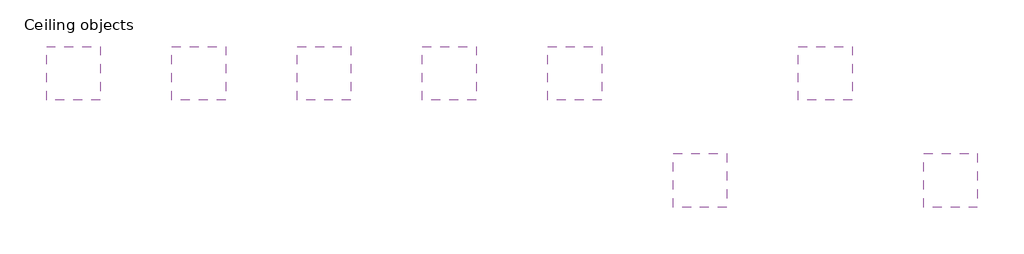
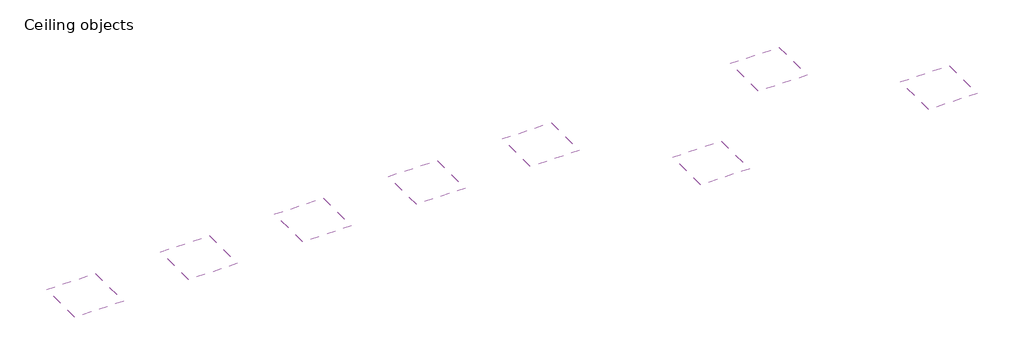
# One storey: 8 coverings.
"""IFC4 building model written with IfcOpenShell, lengths in millimetres."""

from ifc_helpers import new_model, si_unit, frame, origin, place, context, project, spatial, polyline, outline, extrude, element, save

model = new_model("IFC4")

# Units and contexts
model_context = context("Model", 3, world=origin())
ifc_project = project(units=[si_unit("LENGTHUNIT", "METRE", prefix="MILLI")], contexts=[model_context])

# Site, building, storey
site = spatial("IfcSite", under=ifc_project)
building = spatial("IfcBuilding", under=site)
storey = spatial("IfcBuildingStorey", under=building, Name="Ceiling objects", Elevation=0.0)

# Coverings
placement = place(None, origin())
element("IfcCovering", 1, ObjectType="Knauf Danoline Contur Globe 600x600x12.5_S24_D", at=placement, inside=storey, context=model_context, shape_type="SweptSolid", body=[
    extrude(outline(polyline([(-4783.0103193, 8117.0281757), (-4783.0103193, 5117.0281757), (-7783.0103193, 5117.0281757), (-7783.0103193, 8117.0281757), (-4783.0103193, 8117.0281757)])), frame((0.0, 0.0, 2600.0), z_axis=(0.0, 0.0, 1.0), x_axis=(1.0, 0.0, 0.0)), (0.0, 0.0, 1.0), 49.0000016),
])
element("IfcCovering", 2, ObjectType="Knauf Danoline Contur Micro 600x600x12.5_S24_D", at=placement, inside=storey, context=model_context, shape_type="SweptSolid", body=[
    extrude(outline(polyline([(2216.9899047, 8117.0281757), (2216.9899047, 5117.0281757), (-783.0100953, 5117.0281757), (-783.0100953, 8117.0281757), (2216.9899047, 8117.0281757)])), frame((0.0, 0.0, 2600.0), z_axis=(0.0, 0.0, 1.0), x_axis=(1.0, 0.0, 0.0)), (0.0, 0.0, 1.0), 50.0000016),
])
element("IfcCovering", 3, ObjectType="Knauf Danoline Contur Quadril 600x600x12.5_S24_D", at=placement, inside=storey, context=model_context, shape_type="SweptSolid", body=[
    extrude(outline(polyline([(9216.9901287, 8117.0281757), (9216.9901287, 5117.0281757), (6216.9901287, 5117.0281757), (6216.9901287, 8117.0281757), (9216.9901287, 8117.0281757)])), frame((0.0, 0.0, 2600.0), z_axis=(0.0, 0.0, 1.0), x_axis=(1.0, 0.0, 0.0)), (0.0, 0.0, 1.0), 50.0000016),
])
element("IfcCovering", 4, ObjectType="Knauf Danoline Contur Regular 600x600x12.5_S24_D", at=placement, inside=storey, context=model_context, shape_type="SweptSolid", body=[
    extrude(outline(polyline([(16216.9903527, 8117.0281757), (16216.9903527, 5117.0281757), (13216.9903527, 5117.0281757), (13216.9903527, 8117.0281757), (16216.9903527, 8117.0281757)])), frame((0.0, 0.0, 2600.0), z_axis=(0.0, 0.0, 1.0), x_axis=(1.0, 0.0, 0.0)), (0.0, 0.0, 1.0), 50.0000016),
])
element("IfcCovering", 5, ObjectType="Knauf Danoline Contur Tangent 600x600x12.5_S24_D", at=placement, inside=storey, context=model_context, shape_type="SweptSolid", body=[
    extrude(outline(polyline([(23216.9905767, 8117.0281757), (23216.9905767, 5117.0281757), (20216.9905767, 5117.0281757), (20216.9905767, 8117.0281757), (23216.9905767, 8117.0281757)])), frame((0.0, 0.0, 2600.0), z_axis=(0.0, 0.0, 1.0), x_axis=(1.0, 0.0, 0.0)), (0.0, 0.0, 1.0), 50.0000016),
])
element("IfcCovering", 6, ObjectType="Knauf Danoline Contur Unity 3 600x600x12.5_S24_D+", at=placement, inside=storey, context=model_context, shape_type="SweptSolid", body=[
    extrude(outline(polyline([(30216.9908007, 2117.0279837), (30216.9908007, -882.9720163), (27216.9908007, -882.9720163), (27216.9908007, 2117.0279837), (30216.9908007, 2117.0279837)])), frame((0.0, 0.0, 2600.0), z_axis=(0.0, 0.0, 1.0), x_axis=(1.0, 0.0, 0.0)), (0.0, 0.0, 1.0), 50.0000016),
])
element("IfcCovering", 7, ObjectType="Knauf Danoline Contur Unity 6 600x600x12.5_S24_D", at=placement, inside=storey, context=model_context, shape_type="SweptSolid", body=[
    extrude(outline(polyline([(37216.9910247, 8117.0281757), (37216.9910247, 5117.0281757), (34216.9910247, 5117.0281757), (34216.9910247, 8117.0281757), (37216.9910247, 8117.0281757)])), frame((0.0, 0.0, 2600.0), z_axis=(0.0, 0.0, 1.0), x_axis=(1.0, 0.0, 0.0)), (0.0, 0.0, 1.0), 50.0000016),
])
element("IfcCovering", 8, ObjectType="Knauf Danoline Contur Unity 8-15-20 600x600x12.5_S24_D+", at=placement, inside=storey, context=model_context, shape_type="SweptSolid", body=[
    extrude(outline(polyline([(44216.9912487, 2117.0279837), (44216.9912487, -882.9720163), (41216.9912487, -882.9720163), (41216.9912487, 2117.0279837), (44216.9912487, 2117.0279837)])), frame((0.0, 0.0, 2600.0), z_axis=(0.0, 0.0, 1.0), x_axis=(1.0, 0.0, 0.0)), (0.0, 0.0, 1.0), 50.0000016),
])

save(model, "model.ifc")
